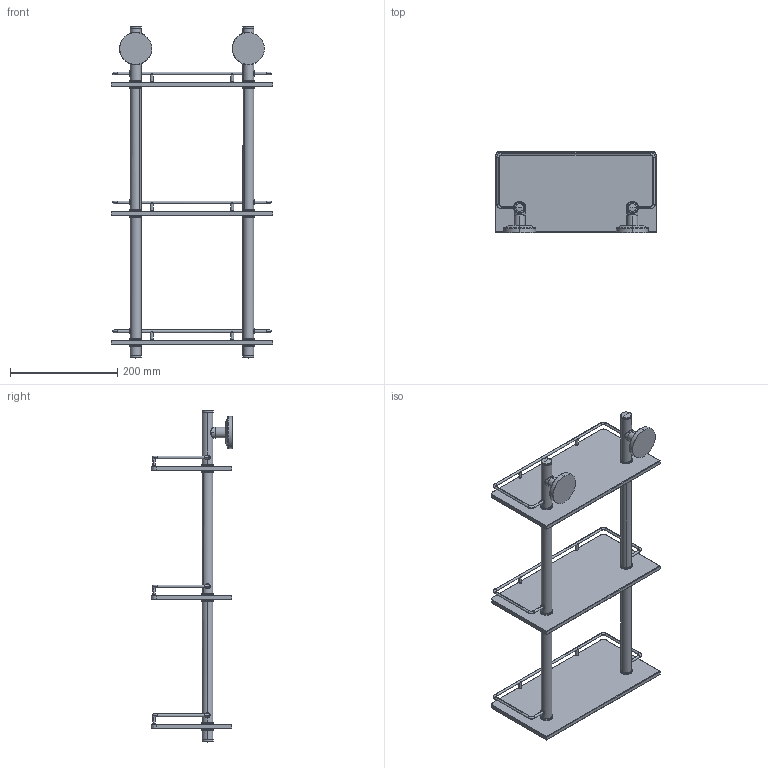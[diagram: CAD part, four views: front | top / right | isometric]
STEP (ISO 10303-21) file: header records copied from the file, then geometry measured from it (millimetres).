
FILE_DESCRIPTION(('THIS FILE CONTAINS SOME STEP INSTANCES'),'1');
FILE_NAME('sta_067.stp','2015-12-09T11:51:01',('UNDEFINED'),('UNDEFINED'),'T-FLEX CAD STEP converter','T-FLEX CAD','');
FILE_SCHEMA(('CONFIG_CONTROL_DESIGN'));
Length unit declared in the file: metre
Products named in the file (8): 砱鋋_23; 砱鋋_24; 砱鋋_27; 3D 鐨飹懤艜_49
Bounding box: 300 x 151.9 x 618.6 mm (x, y, z)
Volume: 1567445.9 mm3; surface area: 417117.2 mm2
Topology: 8 solids, 12 shells, 508 faces, 1265 edges, 785 vertices
Faces by surface type: cylinder 180, plane 102, bspline 82, cone 80, torus 56, sphere 8
Entity records: 37375 total; most frequent: CARTESIAN_POINT 27565, ORIENTED_EDGE 2466, DIRECTION 1402, EDGE_CURVE 1233, VERTEX_POINT 785, EDGE_LOOP 556, AXIS2_PLACEMENT_3D 532, ADVANCED_FACE 508
